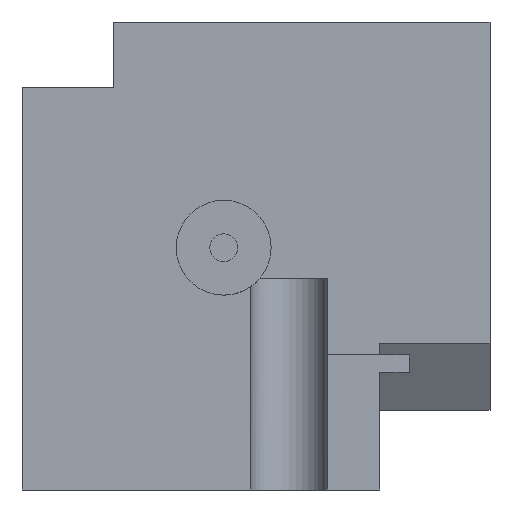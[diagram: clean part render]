
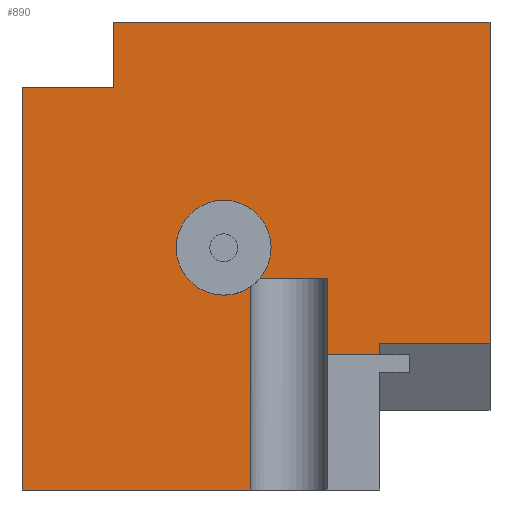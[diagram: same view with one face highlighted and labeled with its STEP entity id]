
A CAD part, left-side view. The second image highlights one B-rep face of the part: STEP entity #890.
In plain terms, the highlighted planar face has unit normal (-1, 0, 0).
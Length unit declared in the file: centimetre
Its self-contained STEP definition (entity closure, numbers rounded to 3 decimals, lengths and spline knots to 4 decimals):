
#5 = CARTESIAN_POINT ( 'NONE',  ( 0., 1000., 860.3942 ) ) ;
#35 = CARTESIAN_POINT ( 'NONE',  ( 0., 1000., 0. ) ) ;
#40 = ORIENTED_EDGE ( 'NONE', *, *, #423, .T. ) ;
#52 = VECTOR ( 'NONE', #595, 100. ) ;
#54 = EDGE_CURVE ( 'NONE', #221, #367, #323, .T. ) ;
#57 = CARTESIAN_POINT ( 'NONE',  ( 0., 347.9447, 288.4771 ) ) ;
#59 = EDGE_CURVE ( 'NONE', #789, #512, #488, .T. ) ;
#63 = LINE ( 'NONE', #143, #99 ) ;
#65 = AXIS2_PLACEMENT_3D ( 'NONE', #105, #400, #738 ) ;
#79 = CIRCLE ( 'NONE', #65, 101.4082 ) ;
#99 = VECTOR ( 'NONE', #315, 100. ) ;
#100 = DIRECTION ( 'NONE',  ( 0., -1., 0. ) ) ;
#105 = CARTESIAN_POINT ( 'NONE',  ( 0., 569.0505, 517.7159 ) ) ;
#123 = DIRECTION ( 'NONE',  ( 0., 0., 1. ) ) ;
#126 = VERTEX_POINT ( 'NONE', #411 ) ;
#128 = EDGE_CURVE ( 'NONE', #775, #495, #79, .T. ) ;
#129 = CARTESIAN_POINT ( 'NONE',  ( 0., 1000., 1000. ) ) ;
#143 = CARTESIAN_POINT ( 'NONE',  ( 0., 804.5384, 860.3942 ) ) ;
#151 = CARTESIAN_POINT ( 'NONE',  ( 0., 804.5384, 860.3942 ) ) ;
#152 = ORIENTED_EDGE ( 'NONE', *, *, #54, .T. ) ;
#153 = DIRECTION ( 'NONE',  ( 0., 0., -1. ) ) ;
#154 = CARTESIAN_POINT ( 'NONE',  ( 0., 511.2792, 0. ) ) ;
#160 = CARTESIAN_POINT ( 'NONE',  ( 0., 0., 1000. ) ) ;
#166 = LINE ( 'NONE', #876, #220 ) ;
#169 = ORIENTED_EDGE ( 'NONE', *, *, #766, .F. ) ;
#175 = DIRECTION ( 'NONE',  ( 0., 0., -1. ) ) ;
#181 = CIRCLE ( 'NONE', #668, 101.4082 ) ;
#188 = EDGE_CURVE ( 'NONE', #221, #775, #544, .T. ) ;
#189 = ORIENTED_EDGE ( 'NONE', *, *, #401, .F. ) ;
#194 = VECTOR ( 'NONE', #202, 100. ) ;
#202 = DIRECTION ( 'NONE',  ( 0., 1., 0. ) ) ;
#214 = VECTOR ( 'NONE', #723, 100. ) ;
#220 = VECTOR ( 'NONE', #153, 100. ) ;
#221 = VERTEX_POINT ( 'NONE', #439 ) ;
#223 = DIRECTION ( 'NONE',  ( 0., -1., 0. ) ) ;
#229 = AXIS2_PLACEMENT_3D ( 'NONE', #854, #444, #925 ) ;
#244 = EDGE_CURVE ( 'NONE', #658, #622, #522, .T. ) ;
#246 = CARTESIAN_POINT ( 'NONE',  ( 0., 1000., 0. ) ) ;
#273 = ORIENTED_EDGE ( 'NONE', *, *, #636, .T. ) ;
#290 = ORIENTED_EDGE ( 'NONE', *, *, #59, .T. ) ;
#292 = CARTESIAN_POINT ( 'NONE',  ( 0., 569.0505, 517.7159 ) ) ;
#297 = LINE ( 'NONE', #374, #408 ) ;
#311 = EDGE_CURVE ( 'NONE', #541, #835, #918, .T. ) ;
#315 = DIRECTION ( 'NONE',  ( 0., 0., 1. ) ) ;
#323 = LINE ( 'NONE', #821, #714 ) ;
#328 = ORIENTED_EDGE ( 'NONE', *, *, #244, .F. ) ;
#329 = VECTOR ( 'NONE', #621, 100. ) ;
#340 = CARTESIAN_POINT ( 'NONE',  ( 0., 569.0505, 416.3076 ) ) ;
#347 = CARTESIAN_POINT ( 'NONE',  ( 0., 172.3708, 288.4771 ) ) ;
#351 = LINE ( 'NONE', #790, #768 ) ;
#366 = ORIENTED_EDGE ( 'NONE', *, *, #128, .F. ) ;
#367 = VERTEX_POINT ( 'NONE', #696 ) ;
#371 = EDGE_CURVE ( 'NONE', #534, #658, #63, .T. ) ;
#374 = CARTESIAN_POINT ( 'NONE',  ( 0., 511.2792, 452.5032 ) ) ;
#385 = LINE ( 'NONE', #151, #329 ) ;
#388 = CARTESIAN_POINT ( 'NONE',  ( 0., 1000., 1000. ) ) ;
#394 = DIRECTION ( 'NONE',  ( 0., 0., -1. ) ) ;
#400 = DIRECTION ( 'NONE',  ( -1., 0., 0. ) ) ;
#401 = EDGE_CURVE ( 'NONE', #126, #512, #297, .T. ) ;
#408 = VECTOR ( 'NONE', #953, 100. ) ;
#411 = CARTESIAN_POINT ( 'NONE',  ( 0., 511.2792, 434.3726 ) ) ;
#414 = VERTEX_POINT ( 'NONE', #709 ) ;
#423 = EDGE_CURVE ( 'NONE', #534, #578, #385, .T. ) ;
#439 = CARTESIAN_POINT ( 'NONE',  ( 0., 491.3915, 452.5032 ) ) ;
#444 = DIRECTION ( 'NONE',  ( -1., 0., 0. ) ) ;
#455 = DIRECTION ( 'NONE',  ( 1., 0., 0. ) ) ;
#470 = FACE_OUTER_BOUND ( 'NONE', #978, .T. ) ;
#475 = CARTESIAN_POINT ( 'NONE',  ( 0., 236.0399, 288.4771 ) ) ;
#478 = ORIENTED_EDGE ( 'NONE', *, *, #566, .T. ) ;
#480 = LINE ( 'NONE', #487, #563 ) ;
#487 = CARTESIAN_POINT ( 'NONE',  ( 0., 347.9447, 452.5032 ) ) ;
#488 = LINE ( 'NONE', #246, #214 ) ;
#495 = VERTEX_POINT ( 'NONE', #340 ) ;
#503 = DIRECTION ( 'NONE',  ( -1., 0., 0. ) ) ;
#512 = VERTEX_POINT ( 'NONE', #154 ) ;
#522 = LINE ( 'NONE', #129, #744 ) ;
#534 = VERTEX_POINT ( 'NONE', #639 ) ;
#537 = ORIENTED_EDGE ( 'NONE', *, *, #975, .F. ) ;
#541 = VERTEX_POINT ( 'NONE', #475 ) ;
#544 = CIRCLE ( 'NONE', #229, 101.4082 ) ;
#563 = VECTOR ( 'NONE', #394, 100. ) ;
#566 = EDGE_CURVE ( 'NONE', #367, #835, #480, .T. ) ;
#569 = CARTESIAN_POINT ( 'NONE',  ( 0., 236.0399, 313.7076 ) ) ;
#578 = VERTEX_POINT ( 'NONE', #5 ) ;
#595 = DIRECTION ( 'NONE',  ( 0., 0., -1. ) ) ;
#621 = DIRECTION ( 'NONE',  ( 0., 1., 0. ) ) ;
#622 = VERTEX_POINT ( 'NONE', #160 ) ;
#636 = EDGE_CURVE ( 'NONE', #578, #789, #722, .T. ) ;
#639 = CARTESIAN_POINT ( 'NONE',  ( 0., 804.5384, 860.3942 ) ) ;
#658 = VERTEX_POINT ( 'NONE', #758 ) ;
#660 = ORIENTED_EDGE ( 'NONE', *, *, #188, .F. ) ;
#668 = AXIS2_PLACEMENT_3D ( 'NONE', #292, #503, #123 ) ;
#669 = VECTOR ( 'NONE', #175, 100. ) ;
#696 = CARTESIAN_POINT ( 'NONE',  ( 0., 347.9447, 452.5032 ) ) ;
#698 = ORIENTED_EDGE ( 'NONE', *, *, #792, .T. ) ;
#708 = PLANE ( 'NONE',  #750 ) ;
#709 = CARTESIAN_POINT ( 'NONE',  ( 0., 0., 313.7076 ) ) ;
#714 = VECTOR ( 'NONE', #100, 100. ) ;
#722 = LINE ( 'NONE', #764, #52 ) ;
#723 = DIRECTION ( 'NONE',  ( 0., -1., 0. ) ) ;
#738 = DIRECTION ( 'NONE',  ( 0., 0., 1. ) ) ;
#741 = CARTESIAN_POINT ( 'NONE',  ( 0., 569.0505, 619.1241 ) ) ;
#744 = VECTOR ( 'NONE', #837, 100. ) ;
#750 = AXIS2_PLACEMENT_3D ( 'NONE', #388, #455, #776 ) ;
#757 = ORIENTED_EDGE ( 'NONE', *, *, #311, .F. ) ;
#758 = CARTESIAN_POINT ( 'NONE',  ( 0., 804.5384, 1000. ) ) ;
#764 = CARTESIAN_POINT ( 'NONE',  ( 0., 1000., 1000. ) ) ;
#766 = EDGE_CURVE ( 'NONE', #495, #126, #181, .T. ) ;
#768 = VECTOR ( 'NONE', #223, 100. ) ;
#775 = VERTEX_POINT ( 'NONE', #741 ) ;
#776 = DIRECTION ( 'NONE',  ( 0., 0., -1. ) ) ;
#789 = VERTEX_POINT ( 'NONE', #35 ) ;
#790 = CARTESIAN_POINT ( 'NONE',  ( 0., 236.0399, 313.7076 ) ) ;
#792 = EDGE_CURVE ( 'NONE', #947, #414, #351, .T. ) ;
#812 = CARTESIAN_POINT ( 'NONE',  ( 0., 0., 1000. ) ) ;
#818 = LINE ( 'NONE', #812, #669 ) ;
#821 = CARTESIAN_POINT ( 'NONE',  ( 0., 1000., 452.5032 ) ) ;
#835 = VERTEX_POINT ( 'NONE', #57 ) ;
#837 = DIRECTION ( 'NONE',  ( 0., -1., 0. ) ) ;
#854 = CARTESIAN_POINT ( 'NONE',  ( 0., 569.0505, 517.7159 ) ) ;
#876 = CARTESIAN_POINT ( 'NONE',  ( 0., 236.0399, 313.7076 ) ) ;
#890 = ADVANCED_FACE ( 'NONE', ( #470 ), #708, .F. ) ;
#899 = ORIENTED_EDGE ( 'NONE', *, *, #371, .F. ) ;
#918 = LINE ( 'NONE', #347, #194 ) ;
#925 = DIRECTION ( 'NONE',  ( 0., 0., 1. ) ) ;
#947 = VERTEX_POINT ( 'NONE', #569 ) ;
#953 = DIRECTION ( 'NONE',  ( 0., 0., -1. ) ) ;
#954 = ORIENTED_EDGE ( 'NONE', *, *, #982, .F. ) ;
#975 = EDGE_CURVE ( 'NONE', #622, #414, #818, .T. ) ;
#978 = EDGE_LOOP ( 'NONE', ( #189, #169, #366, #660, #152, #478, #757, #954, #698, #537, #328, #899, #40, #273, #290 ) ) ;
#982 = EDGE_CURVE ( 'NONE', #947, #541, #166, .T. ) ;
